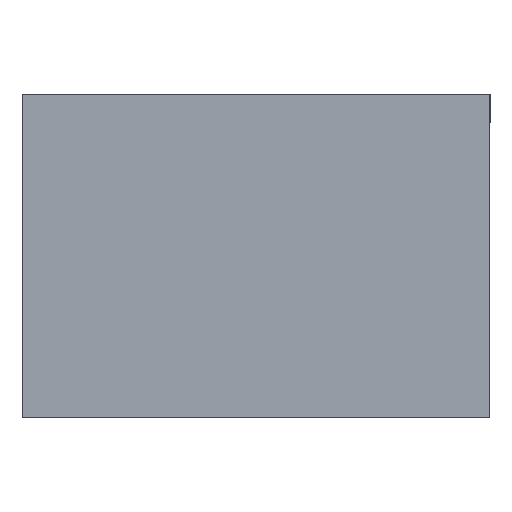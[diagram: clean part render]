
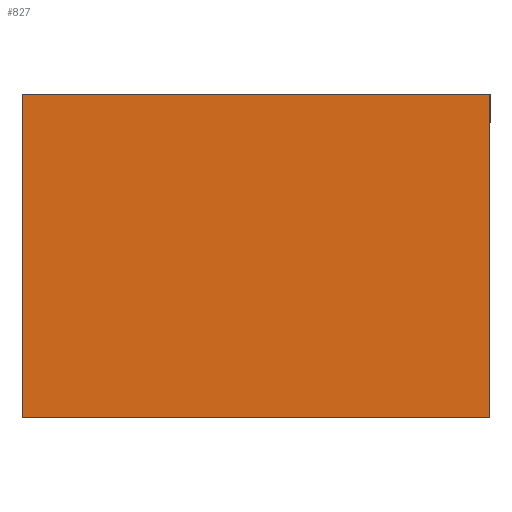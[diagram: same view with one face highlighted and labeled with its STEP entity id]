
A CAD part, front view. The second image highlights one B-rep face of the part: STEP entity #827.
In plain terms, the highlighted planar face has unit normal (0, -1, 0).
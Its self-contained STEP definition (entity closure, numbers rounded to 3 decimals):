
#43 = EDGE_CURVE ( 'NONE', #1513, #1613, #1763, .T. ) ;
#71 = LINE ( 'NONE', #2461, #2603 ) ;
#133 = ORIENTED_EDGE ( 'NONE', *, *, #1360, .F. ) ;
#192 = ORIENTED_EDGE ( 'NONE', *, *, #1691, .F. ) ;
#208 = EDGE_CURVE ( 'NONE', #1613, #1203, #71, .T. ) ;
#224 = DIRECTION ( 'NONE',  ( 0., 0., 1. ) ) ;
#240 = VERTEX_POINT ( 'NONE', #2102 ) ;
#345 = VECTOR ( 'NONE', #575, 1000. ) ;
#358 = DIRECTION ( 'NONE',  ( 0., 0., 1. ) ) ;
#575 = DIRECTION ( 'NONE',  ( -1., 0., 0. ) ) ;
#627 = ORIENTED_EDGE ( 'NONE', *, *, #208, .F. ) ;
#658 = LINE ( 'NONE', #1685, #1664 ) ;
#743 = DIRECTION ( 'NONE',  ( 0., 0., -1. ) ) ;
#752 = CARTESIAN_POINT ( 'NONE',  ( 32.5, 0., -22.5 ) ) ;
#827 = ADVANCED_FACE ( 'NONE', ( #1414 ), #1757, .F. ) ;
#837 = CARTESIAN_POINT ( 'NONE',  ( 32.5, 0., -22.5 ) ) ;
#1035 = AXIS2_PLACEMENT_3D ( 'NONE', #1164, #1574, #358 ) ;
#1164 = CARTESIAN_POINT ( 'NONE',  ( 0., 0., 0. ) ) ;
#1203 = VERTEX_POINT ( 'NONE', #1614 ) ;
#1360 = EDGE_CURVE ( 'NONE', #240, #1513, #2635, .T. ) ;
#1414 = FACE_OUTER_BOUND ( 'NONE', #2358, .T. ) ;
#1513 = VERTEX_POINT ( 'NONE', #837 ) ;
#1574 = DIRECTION ( 'NONE',  ( 0., 1., 0. ) ) ;
#1613 = VERTEX_POINT ( 'NONE', #2055 ) ;
#1614 = CARTESIAN_POINT ( 'NONE',  ( -32.5, 0., 22.5 ) ) ;
#1664 = VECTOR ( 'NONE', #1894, 1000. ) ;
#1685 = CARTESIAN_POINT ( 'NONE',  ( -32.5, 0., 22.5 ) ) ;
#1691 = EDGE_CURVE ( 'NONE', #1203, #240, #658, .T. ) ;
#1757 = PLANE ( 'NONE',  #1035 ) ;
#1763 = LINE ( 'NONE', #1772, #345 ) ;
#1772 = CARTESIAN_POINT ( 'NONE',  ( -32.5, 0., -22.5 ) ) ;
#1894 = DIRECTION ( 'NONE',  ( 1., 0., 0. ) ) ;
#2055 = CARTESIAN_POINT ( 'NONE',  ( -32.5, 0., -22.5 ) ) ;
#2086 = ORIENTED_EDGE ( 'NONE', *, *, #43, .F. ) ;
#2089 = VECTOR ( 'NONE', #743, 1000. ) ;
#2102 = CARTESIAN_POINT ( 'NONE',  ( 32.5, 0., 22.5 ) ) ;
#2358 = EDGE_LOOP ( 'NONE', ( #133, #192, #627, #2086 ) ) ;
#2461 = CARTESIAN_POINT ( 'NONE',  ( -32.5, 0., -22.5 ) ) ;
#2603 = VECTOR ( 'NONE', #224, 1000. ) ;
#2635 = LINE ( 'NONE', #752, #2089 ) ;
